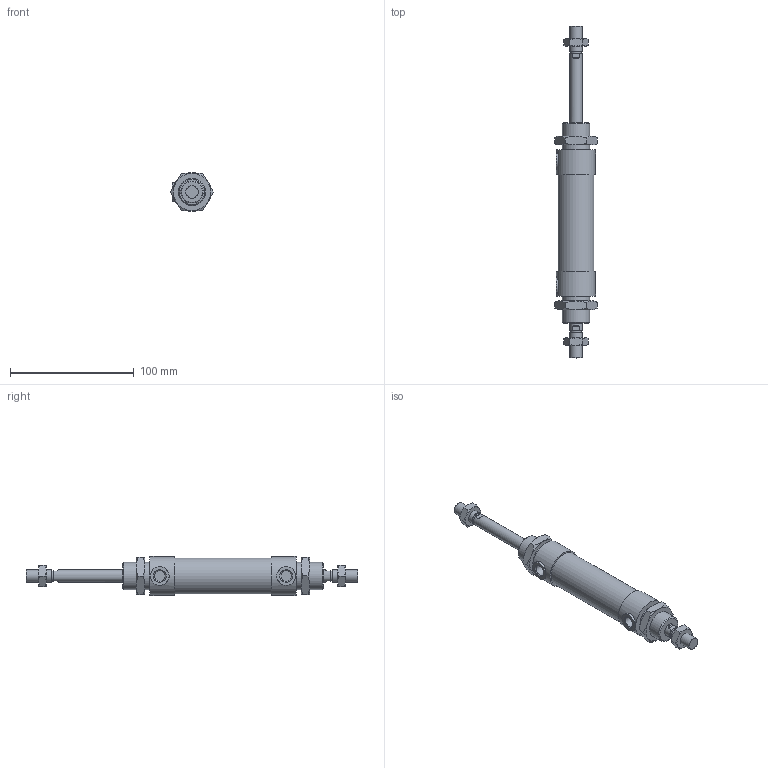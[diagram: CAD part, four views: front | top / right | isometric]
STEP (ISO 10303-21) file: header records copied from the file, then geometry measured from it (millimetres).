
FILE_DESCRIPTION((''),'2;1');
FILE_NAME('L:\Lib-3d\1200\CILINDRI\1232\1232_25_0050.stp','2006-01-05T14:36:00',('medicfa1'),(''),'Autodesk Inventor 10','Autodesk Inventor 10','');
FILE_SCHEMA(('AUTOMOTIVE_DESIGN { 1 0 10303 214 1 1 1 1 }'));
Length unit declared in the file: millimetre
Products named in the file (5): 1232_25_0050; C1232_25_50; S1232_25_50; 1200_25_05; 1200_25_06
Assembly tree (6 placements, depth 2):
  1232_25_0050
    C1232_25_50
    S1232_25_50
    1200_25_05  x2
    1200_25_06  x2
Bounding box: 34.64 x 268 x 31.5 mm (x, y, z)
Volume: 114967.5 mm3; surface area: 35594.5 mm2
Topology: 6 solids, 6 shells, 141 faces, 299 edges, 178 vertices
Faces by surface type: plane 62, cone 54, cylinder 15, bspline 10
Full cylindrical faces by diameter (mm): 8.7 x2, 8.8 x2, 10 x4, 15 x2, 22 x2, 29 x1, 31.5 x2
Entity records: 2620 total; most frequent: CARTESIAN_POINT 721, DIRECTION 390, ORIENTED_EDGE 324, AXIS2_PLACEMENT_3D 177, EDGE_CURVE 162, EDGE_LOOP 136, VERTEX_POINT 110, FACE_OUTER_BOUND 95
